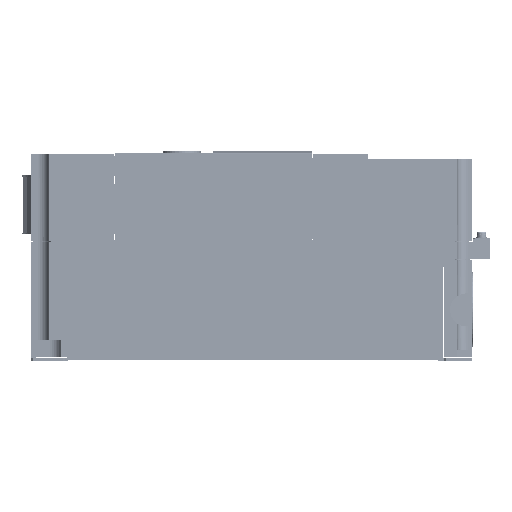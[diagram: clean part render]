
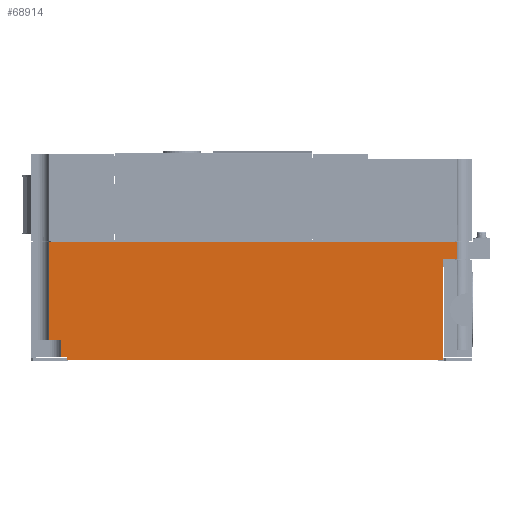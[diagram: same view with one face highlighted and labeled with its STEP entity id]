
A CAD part, left-side view. The second image highlights one B-rep face of the part: STEP entity #68914.
In plain terms, the highlighted planar face has unit normal (-1, 0, 0).
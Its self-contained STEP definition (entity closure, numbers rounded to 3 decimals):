
#17772=DIRECTION('',(0.,0.,-1.));
#17773=VECTOR('',#17772,89.3);
#17774=CARTESIAN_POINT('',(-11.,343.715,102.8));
#17775=LINE('',#17774,#17773);
#17776=DIRECTION('',(0.,1.,0.));
#17777=VECTOR('',#17776,10.715);
#17778=CARTESIAN_POINT('',(-11.,333.,13.5));
#17779=LINE('',#17778,#17777);
#17780=DIRECTION('',(0.,-1.,0.));
#17781=VECTOR('',#17780,369.828);
#17782=CARTESIAN_POINT('',(-11.,343.715,102.8));
#17783=LINE('',#17782,#17781);
#17784=DIRECTION('',(0.,1.,0.));
#17785=VECTOR('',#17784,12.913);
#17786=CARTESIAN_POINT('',(-11.,-26.113,86.9));
#17787=LINE('',#17786,#17785);
#17788=DIRECTION('',(0.,0.,-1.));
#17789=VECTOR('',#17788,90.9);
#17790=CARTESIAN_POINT('',(-11.,-13.2,86.9));
#17791=LINE('',#17790,#17789);
#17792=DIRECTION('',(0.,1.,0.));
#17793=VECTOR('',#17792,341.2);
#17794=CARTESIAN_POINT('',(-11.,-13.2,-4.));
#17795=LINE('',#17794,#17793);
#17796=DIRECTION('',(0.,0.,1.));
#17797=VECTOR('',#17796,2.5);
#17798=CARTESIAN_POINT('',(-11.,328.,-4.));
#17799=LINE('',#17798,#17797);
#17800=DIRECTION('',(0.,1.,0.));
#17801=VECTOR('',#17800,5.);
#17802=CARTESIAN_POINT('',(-11.,328.,-1.5));
#17803=LINE('',#17802,#17801);
#17804=DIRECTION('',(0.,0.,1.));
#17805=VECTOR('',#17804,15.);
#17806=CARTESIAN_POINT('',(-11.,333.,-1.5));
#17807=LINE('',#17806,#17805);
#17808=DIRECTION('',(0.,0.,-1.));
#17809=VECTOR('',#17808,15.9);
#17810=CARTESIAN_POINT('',(-11.,-26.113,102.8));
#17811=LINE('',#17810,#17809);
#35024=CARTESIAN_POINT('',(-11.,328.,-4.));
#35026=VERTEX_POINT('',#35024);
#35029=CARTESIAN_POINT('',(-11.,-13.2,-4.));
#35030=VERTEX_POINT('',#35029);
#35047=CARTESIAN_POINT('',(-11.,328.,-1.5));
#35048=VERTEX_POINT('',#35047);
#35073=CARTESIAN_POINT('',(-11.,-13.2,86.9));
#35074=VERTEX_POINT('',#35073);
#35133=CARTESIAN_POINT('',(-11.,-26.113,86.9));
#35134=VERTEX_POINT('',#35133);
#35243=CARTESIAN_POINT('',(-11.,-26.113,102.8));
#35244=VERTEX_POINT('',#35243);
#35245=CARTESIAN_POINT('',(-11.,343.715,102.8));
#35246=VERTEX_POINT('',#35245);
#35473=CARTESIAN_POINT('',(-11.,333.,-1.5));
#35474=VERTEX_POINT('',#35473);
#35683=CARTESIAN_POINT('',(-11.,343.715,13.5));
#35684=VERTEX_POINT('',#35683);
#35685=CARTESIAN_POINT('',(-11.,333.,13.5));
#35686=VERTEX_POINT('',#35685);
#68891=CARTESIAN_POINT('',(-11.,158.801,49.4));
#68892=DIRECTION('',(1.,0.,0.));
#68893=DIRECTION('',(0.,-1.,0.));
#68894=AXIS2_PLACEMENT_3D('',#68891,#68892,#68893);
#68895=PLANE('',#68894);
#68896=ORIENTED_EDGE('',*,*,#68868,.T.);
#68897=ORIENTED_EDGE('',*,*,#68886,.F.);
#68898=ORIENTED_EDGE('',*,*,#51108,.T.);
#68900=ORIENTED_EDGE('',*,*,#68899,.T.);
#68901=ORIENTED_EDGE('',*,*,#68460,.T.);
#68903=ORIENTED_EDGE('',*,*,#68902,.T.);
#68905=ORIENTED_EDGE('',*,*,#68904,.T.);
#68907=ORIENTED_EDGE('',*,*,#68906,.T.);
#68909=ORIENTED_EDGE('',*,*,#68908,.T.);
#68911=ORIENTED_EDGE('',*,*,#68910,.T.);
#68912=EDGE_LOOP('',(#68896,#68897,#68898,#68900,#68901,#68903,#68905,#68907,
#68909,#68911));
#68913=FACE_OUTER_BOUND('',#68912,.F.);
#68914=ADVANCED_FACE('',(#68913),#68895,.F.);
#51108=EDGE_CURVE('',#35246,#35244,#17783,.T.);
#68460=EDGE_CURVE('',#35134,#35074,#17787,.T.);
#68868=EDGE_CURVE('',#35686,#35684,#17779,.T.);
#68886=EDGE_CURVE('',#35246,#35684,#17775,.T.);
#68899=EDGE_CURVE('',#35244,#35134,#17811,.T.);
#68902=EDGE_CURVE('',#35074,#35030,#17791,.T.);
#68904=EDGE_CURVE('',#35030,#35026,#17795,.T.);
#68906=EDGE_CURVE('',#35026,#35048,#17799,.T.);
#68908=EDGE_CURVE('',#35048,#35474,#17803,.T.);
#68910=EDGE_CURVE('',#35474,#35686,#17807,.T.);
